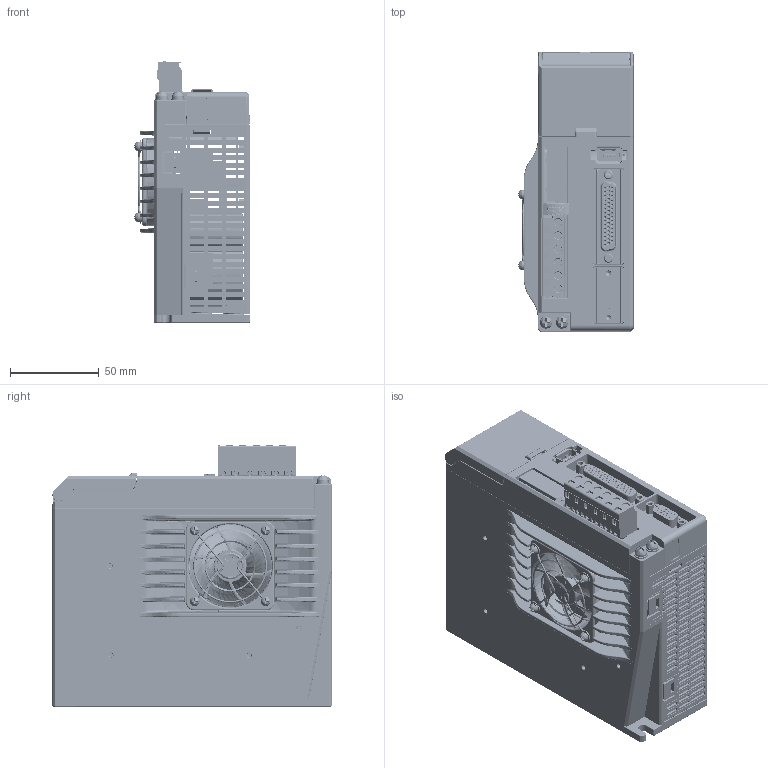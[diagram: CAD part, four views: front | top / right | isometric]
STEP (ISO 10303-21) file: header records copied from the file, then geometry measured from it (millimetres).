
FILE_DESCRIPTION (( 'STEP AP203' ), '1' );
FILE_NAME ('ES2-DA808_3D.STEP', '2019-12-26T11:39:04', ( 'hwtest' ), ( 'Microsoft' ), 'SwSTEP 2.0', 'SolidWorks 2014', '' );
FILE_SCHEMA (( 'CONFIG_CONTROL_DESIGN' ));
Products named in the file (1): ES2-DA808_3D
Bounding box: 65.14 x 157.5 x 147.4 mm (x, y, z)
Surface area: 282335.5 mm2 (no closed solid volume)
Topology: 0 solids, 34 shells, 6515 faces, 18299 edges, 11784 vertices
Faces by surface type: plane 3748, cylinder 1510, bspline 979, cone 278
Entity records: 275008 total; most frequent: CARTESIAN_POINT 126387, ORIENTED_EDGE 36115, DIRECTION 22292, EDGE_CURVE 18123, VERTEX_POINT 11787, LINE 8604, VECTOR 8604, B_SPLINE_CURVE_WITH_KNOTS 7919
